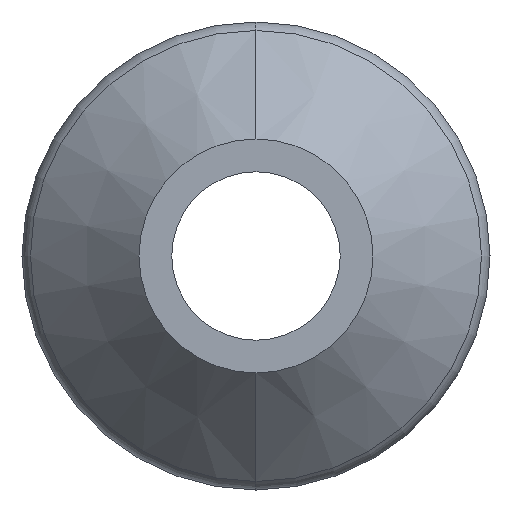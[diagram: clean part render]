
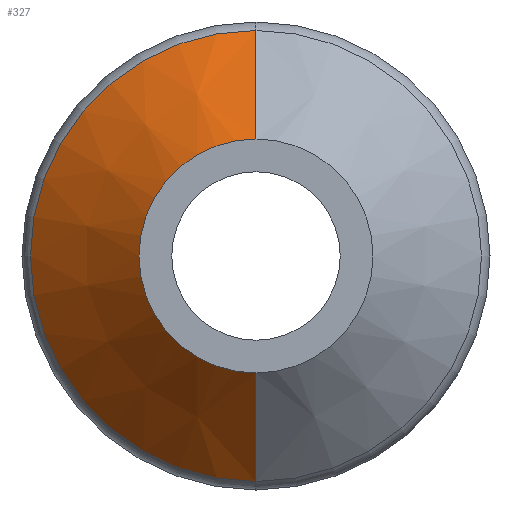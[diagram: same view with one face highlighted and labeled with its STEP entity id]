
A CAD part, left-side view. The second image highlights one B-rep face of the part: STEP entity #327.
In plain terms, the highlighted conical face has half-angle 45 degrees and reference radius 3.175 mm.
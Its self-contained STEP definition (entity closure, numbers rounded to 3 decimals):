
#13 = CARTESIAN_POINT ( 'NONE',  ( 21.994, 0., -6.119 ) ) ;
#17 = VECTOR ( 'NONE', #364, 1000. ) ;
#22 = VERTEX_POINT ( 'NONE', #113 ) ;
#26 = VERTEX_POINT ( 'NONE', #419 ) ;
#50 = CARTESIAN_POINT ( 'NONE',  ( 19.05, 0., 0. ) ) ;
#58 = ORIENTED_EDGE ( 'NONE', *, *, #434, .F. ) ;
#74 = CARTESIAN_POINT ( 'NONE',  ( 19.05, 0., -3.175 ) ) ;
#90 = VECTOR ( 'NONE', #203, 1000. ) ;
#106 = AXIS2_PLACEMENT_3D ( 'NONE', #50, #215, #490 ) ;
#113 = CARTESIAN_POINT ( 'NONE',  ( 21.994, 0., 6.119 ) ) ;
#124 = CARTESIAN_POINT ( 'NONE',  ( 19.05, 0., -3.175 ) ) ;
#127 = LINE ( 'NONE', #124, #17 ) ;
#131 = EDGE_CURVE ( 'NONE', #269, #26, #329, .T. ) ;
#144 = CIRCLE ( 'NONE', #437, 6.119 ) ;
#149 = CARTESIAN_POINT ( 'NONE',  ( 19.05, 0., 0. ) ) ;
#163 = CARTESIAN_POINT ( 'NONE',  ( 19.05, 0., 3.175 ) ) ;
#170 = ORIENTED_EDGE ( 'NONE', *, *, #243, .T. ) ;
#180 = VERTEX_POINT ( 'NONE', #13 ) ;
#185 = EDGE_CURVE ( 'NONE', #26, #22, #212, .T. ) ;
#187 = DIRECTION ( 'NONE',  ( 0., 0., -1. ) ) ;
#203 = DIRECTION ( 'NONE',  ( 0.707, 0., 0.707 ) ) ;
#212 = LINE ( 'NONE', #163, #90 ) ;
#215 = DIRECTION ( 'NONE',  ( 1., 0., 0. ) ) ;
#227 = CARTESIAN_POINT ( 'NONE',  ( 21.994, 0., 0. ) ) ;
#243 = EDGE_CURVE ( 'NONE', #22, #180, #144, .T. ) ;
#269 = VERTEX_POINT ( 'NONE', #74 ) ;
#273 = DIRECTION ( 'NONE',  ( 0., 0., 1. ) ) ;
#327 = ADVANCED_FACE ( 'NONE', ( #378 ), #374, .T. ) ;
#329 = CIRCLE ( 'NONE', #476, 3.175 ) ;
#364 = DIRECTION ( 'NONE',  ( 0.707, 0., -0.707 ) ) ;
#374 = CONICAL_SURFACE ( 'NONE', #106, 3.175, 0.785 ) ;
#378 = FACE_OUTER_BOUND ( 'NONE', #417, .T. ) ;
#417 = EDGE_LOOP ( 'NONE', ( #511, #465, #170, #58 ) ) ;
#419 = CARTESIAN_POINT ( 'NONE',  ( 19.05, 0., 3.175 ) ) ;
#423 = DIRECTION ( 'NONE',  ( 1., 0., 0. ) ) ;
#434 = EDGE_CURVE ( 'NONE', #269, #180, #127, .T. ) ;
#437 = AXIS2_PLACEMENT_3D ( 'NONE', #227, #502, #273 ) ;
#465 = ORIENTED_EDGE ( 'NONE', *, *, #185, .T. ) ;
#476 = AXIS2_PLACEMENT_3D ( 'NONE', #149, #423, #187 ) ;
#490 = DIRECTION ( 'NONE',  ( 0., 0., -1. ) ) ;
#502 = DIRECTION ( 'NONE',  ( -1., 0., 0. ) ) ;
#511 = ORIENTED_EDGE ( 'NONE', *, *, #131, .T. ) ;
